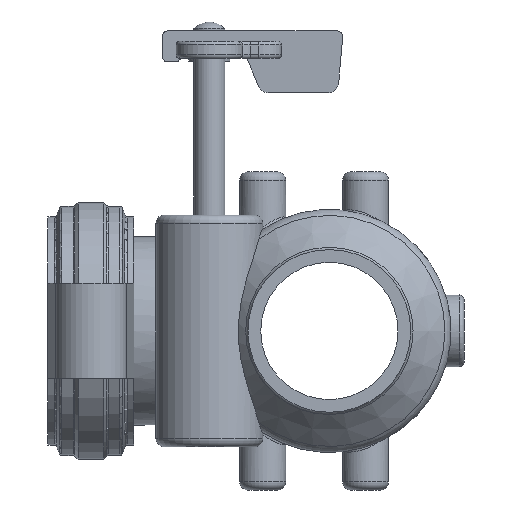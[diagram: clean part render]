
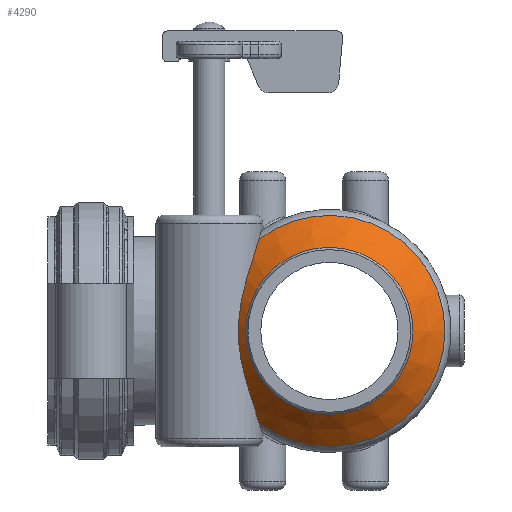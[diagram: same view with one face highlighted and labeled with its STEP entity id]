
A CAD part, left-side view. The second image highlights one B-rep face of the part: STEP entity #4290.
In plain terms, the highlighted conical face has half-angle 45 degrees and reference radius 61.566 mm.
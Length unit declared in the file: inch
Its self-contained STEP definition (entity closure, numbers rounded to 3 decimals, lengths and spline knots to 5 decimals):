
#94=CONICAL_SURFACE('',#4763,2.42387,0.785);
#212=B_SPLINE_CURVE_WITH_KNOTS('',3,(#8666,#8667,#8668,#8669,#8670,#8671,
#8672,#8673,#8674,#8675,#8676,#8677,#8678,#8679,#8680,#8681,#8682,#8683,
#8684,#8685,#8686,#8687,#8688,#8689,#8690,#8691),.UNSPECIFIED.,.F.,.F.,
(4,2,2,2,2,2,2,2,2,2,2,2,4),(3.25991,3.49133,4.65511,
5.81888,6.98266,8.14644,9.31022,10.47399,
11.63777,12.80155,13.96532,15.1291,15.36052),
 .UNSPECIFIED.);
#605=CIRCLE('',#4738,2.81209);
#606=CIRCLE('',#4739,2.81209);
#624=CIRCLE('',#4764,2.03565);
#625=CIRCLE('',#4765,2.03565);
#626=CIRCLE('',#4766,2.03565);
#875=FACE_OUTER_BOUND('',#1127,.T.);
#1127=EDGE_LOOP('',(#3701,#3702,#3703,#3704,#3705,#3706,#3707,#3708));
#1338=LINE('',#9194,#1542);
#1542=VECTOR('',#5904,2.42387);
#1861=VERTEX_POINT('',#8656);
#1862=VERTEX_POINT('',#8665);
#1895=VERTEX_POINT('',#9143);
#1911=VERTEX_POINT('',#9189);
#1912=VERTEX_POINT('',#9190);
#1913=VERTEX_POINT('',#9192);
#2424=EDGE_CURVE('',#1862,#1861,#212,.T.);
#2492=EDGE_CURVE('',#1895,#1862,#605,.T.);
#2493=EDGE_CURVE('',#1861,#1895,#606,.T.);
#2515=EDGE_CURVE('',#1911,#1912,#624,.T.);
#2516=EDGE_CURVE('',#1913,#1911,#625,.T.);
#2517=EDGE_CURVE('',#1913,#1895,#1338,.T.);
#2518=EDGE_CURVE('',#1912,#1913,#626,.T.);
#3701=ORIENTED_EDGE('',*,*,#2515,.F.);
#3702=ORIENTED_EDGE('',*,*,#2516,.F.);
#3703=ORIENTED_EDGE('',*,*,#2517,.T.);
#3704=ORIENTED_EDGE('',*,*,#2492,.T.);
#3705=ORIENTED_EDGE('',*,*,#2424,.T.);
#3706=ORIENTED_EDGE('',*,*,#2493,.T.);
#3707=ORIENTED_EDGE('',*,*,#2517,.F.);
#3708=ORIENTED_EDGE('',*,*,#2518,.F.);
#4290=ADVANCED_FACE('',(#875),#94,.T.);
#4738=AXIS2_PLACEMENT_3D('',#9144,#5844,#5845);
#4739=AXIS2_PLACEMENT_3D('',#9145,#5846,#5847);
#4763=AXIS2_PLACEMENT_3D('',#9188,#5898,#5899);
#4764=AXIS2_PLACEMENT_3D('',#9191,#5900,#5901);
#4765=AXIS2_PLACEMENT_3D('',#9193,#5902,#5903);
#4766=AXIS2_PLACEMENT_3D('',#9195,#5905,#5906);
#5844=DIRECTION('center_axis',(-1.,0.,0.));
#5845=DIRECTION('ref_axis',(0.,0.,1.));
#5846=DIRECTION('center_axis',(-1.,0.,0.));
#5847=DIRECTION('ref_axis',(0.,0.,1.));
#5898=DIRECTION('center_axis',(1.,0.,0.));
#5899=DIRECTION('ref_axis',(0.,1.,0.));
#5900=DIRECTION('center_axis',(-1.,0.,0.));
#5901=DIRECTION('ref_axis',(0.,0.,1.));
#5902=DIRECTION('center_axis',(-1.,0.,0.));
#5903=DIRECTION('ref_axis',(0.,0.,1.));
#5904=DIRECTION('',(0.707,-0.707,0.));
#5905=DIRECTION('center_axis',(-1.,0.,0.));
#5906=DIRECTION('ref_axis',(0.,0.,1.));
#8656=CARTESIAN_POINT('',(-2.83791,1.71913,-2.2254));
#8665=CARTESIAN_POINT('',(-2.83791,1.71913,2.2254));
#8666=CARTESIAN_POINT('Ctrl Pts',(-2.83791,1.71913,2.2254));
#8667=CARTESIAN_POINT('Ctrl Pts',(-2.85375,1.7257,2.20031));
#8668=CARTESIAN_POINT('Ctrl Pts',(-2.86932,1.73252,2.17509));
#8669=CARTESIAN_POINT('Ctrl Pts',(-2.96143,1.77502,2.02221));
#8670=CARTESIAN_POINT('Ctrl Pts',(-3.03098,1.81631,1.89119));
#8671=CARTESIAN_POINT('Ctrl Pts',(-3.15297,1.90281,1.62195));
#8672=CARTESIAN_POINT('Ctrl Pts',(-3.20548,1.94805,1.48351));
#8673=CARTESIAN_POINT('Ctrl Pts',(-3.293,2.0337,1.19981));
#8674=CARTESIAN_POINT('Ctrl Pts',(-3.32805,2.07404,1.05455));
#8675=CARTESIAN_POINT('Ctrl Pts',(-3.3824,2.14199,0.75905));
#8676=CARTESIAN_POINT('Ctrl Pts',(-3.40178,2.16958,0.60876));
#8677=CARTESIAN_POINT('Ctrl Pts',(-3.42722,2.20693,0.30559));
#8678=CARTESIAN_POINT('Ctrl Pts',(-3.43332,2.21668,0.15273));
#8679=CARTESIAN_POINT('Ctrl Pts',(-3.43332,2.21668,-0.15273));
#8680=CARTESIAN_POINT('Ctrl Pts',(-3.42722,2.20693,-0.30559));
#8681=CARTESIAN_POINT('Ctrl Pts',(-3.40178,2.16958,-0.60876));
#8682=CARTESIAN_POINT('Ctrl Pts',(-3.3824,2.14199,-0.75905));
#8683=CARTESIAN_POINT('Ctrl Pts',(-3.32805,2.07404,-1.05455));
#8684=CARTESIAN_POINT('Ctrl Pts',(-3.293,2.0337,-1.19981));
#8685=CARTESIAN_POINT('Ctrl Pts',(-3.20548,1.94805,-1.48351));
#8686=CARTESIAN_POINT('Ctrl Pts',(-3.15297,1.90281,-1.62195));
#8687=CARTESIAN_POINT('Ctrl Pts',(-3.03098,1.81631,-1.89119));
#8688=CARTESIAN_POINT('Ctrl Pts',(-2.96143,1.77502,-2.02221));
#8689=CARTESIAN_POINT('Ctrl Pts',(-2.86932,1.73252,-2.17509));
#8690=CARTESIAN_POINT('Ctrl Pts',(-2.85375,1.7257,-2.20031));
#8691=CARTESIAN_POINT('Ctrl Pts',(-2.83791,1.71913,-2.2254));
#9143=CARTESIAN_POINT('',(-2.83791,-2.81209,0.));
#9144=CARTESIAN_POINT('Origin',(-2.83791,0.,0.));
#9145=CARTESIAN_POINT('Origin',(-2.83791,0.,0.));
#9188=CARTESIAN_POINT('Origin',(-3.22613,0.,0.));
#9189=CARTESIAN_POINT('',(-3.61435,2.03565,0.));
#9190=CARTESIAN_POINT('',(-3.61435,0.,-2.03565));
#9191=CARTESIAN_POINT('Origin',(-3.61435,0.,0.));
#9192=CARTESIAN_POINT('',(-3.61435,-2.03565,0.));
#9193=CARTESIAN_POINT('Origin',(-3.61435,0.,0.));
#9194=CARTESIAN_POINT('',(-3.22613,-2.42387,0.));
#9195=CARTESIAN_POINT('Origin',(-3.61435,0.,0.));
